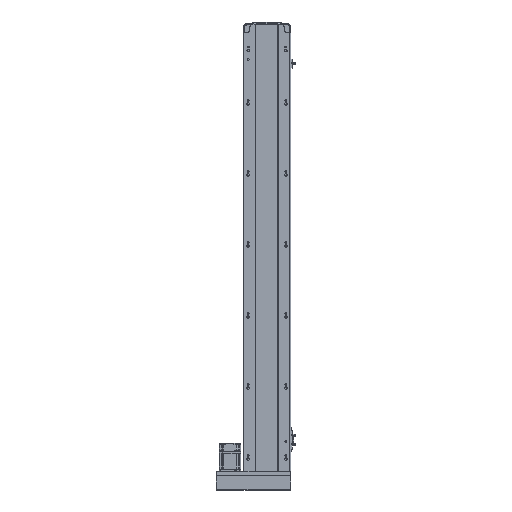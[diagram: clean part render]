
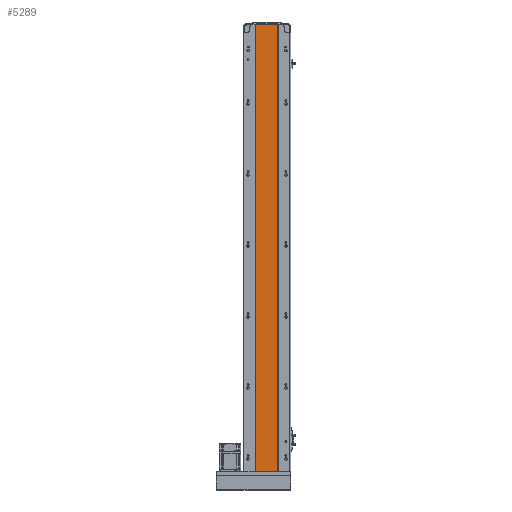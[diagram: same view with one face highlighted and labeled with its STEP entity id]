
A CAD part, front view. The second image highlights one B-rep face of the part: STEP entity #5289.
In plain terms, the highlighted planar face has unit normal (0, -1, 0).
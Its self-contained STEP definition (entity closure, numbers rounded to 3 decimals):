
#1118 = CARTESIAN_POINT ( 'NONE',  ( -32., 1., 1259. ) ) ;
#4172 = LINE ( 'NONE', #26007, #40216 ) ;
#5289 = ADVANCED_FACE ( 'NONE', ( #37724 ), #25333, .F. ) ;
#5636 = EDGE_CURVE ( 'NONE', #24966, #47885, #21681, .T. ) ;
#6980 = DIRECTION ( 'NONE',  ( 0., 1., 0. ) ) ;
#8858 = CARTESIAN_POINT ( 'NONE',  ( 30., 1., 0. ) ) ;
#10783 = EDGE_CURVE ( 'NONE', #56009, #47885, #26042, .T. ) ;
#11860 = DIRECTION ( 'NONE',  ( 0., 0., -1. ) ) ;
#13231 = CARTESIAN_POINT ( 'NONE',  ( 30., 1., 1259. ) ) ;
#14086 = CARTESIAN_POINT ( 'NONE',  ( 30., 1., 1259. ) ) ;
#18777 = VECTOR ( 'NONE', #11860, 1000. ) ;
#20309 = ORIENTED_EDGE ( 'NONE', *, *, #5636, .F. ) ;
#20586 = LINE ( 'NONE', #28307, #49521 ) ;
#21681 = LINE ( 'NONE', #13231, #18777 ) ;
#24558 = ORIENTED_EDGE ( 'NONE', *, *, #10783, .T. ) ;
#24924 = CARTESIAN_POINT ( 'NONE',  ( -32., 1., 1259. ) ) ;
#24966 = VERTEX_POINT ( 'NONE', #14086 ) ;
#25333 = PLANE ( 'NONE',  #58490 ) ;
#25855 = EDGE_CURVE ( 'NONE', #37908, #24966, #4172, .T. ) ;
#26007 = CARTESIAN_POINT ( 'NONE',  ( -32., 1., 1259. ) ) ;
#26042 = LINE ( 'NONE', #28594, #52812 ) ;
#28307 = CARTESIAN_POINT ( 'NONE',  ( -32., 1., 1259. ) ) ;
#28594 = CARTESIAN_POINT ( 'NONE',  ( -32., 1., 0. ) ) ;
#30765 = EDGE_LOOP ( 'NONE', ( #24558, #20309, #57895, #40825 ) ) ;
#31199 = EDGE_CURVE ( 'NONE', #37908, #56009, #20586, .T. ) ;
#35074 = DIRECTION ( 'NONE',  ( 1., 0., 0. ) ) ;
#37120 = DIRECTION ( 'NONE',  ( 1., 0., 0. ) ) ;
#37724 = FACE_OUTER_BOUND ( 'NONE', #30765, .T. ) ;
#37908 = VERTEX_POINT ( 'NONE', #1118 ) ;
#38788 = DIRECTION ( 'NONE',  ( -1., 0., 0. ) ) ;
#40216 = VECTOR ( 'NONE', #35074, 1000. ) ;
#40825 = ORIENTED_EDGE ( 'NONE', *, *, #31199, .T. ) ;
#41755 = DIRECTION ( 'NONE',  ( 0., 0., -1. ) ) ;
#47885 = VERTEX_POINT ( 'NONE', #8858 ) ;
#49521 = VECTOR ( 'NONE', #41755, 1000. ) ;
#52812 = VECTOR ( 'NONE', #37120, 1000. ) ;
#56009 = VERTEX_POINT ( 'NONE', #58066 ) ;
#57895 = ORIENTED_EDGE ( 'NONE', *, *, #25855, .F. ) ;
#58066 = CARTESIAN_POINT ( 'NONE',  ( -32., 1., 0. ) ) ;
#58490 = AXIS2_PLACEMENT_3D ( 'NONE', #24924, #6980, #38788 ) ;
